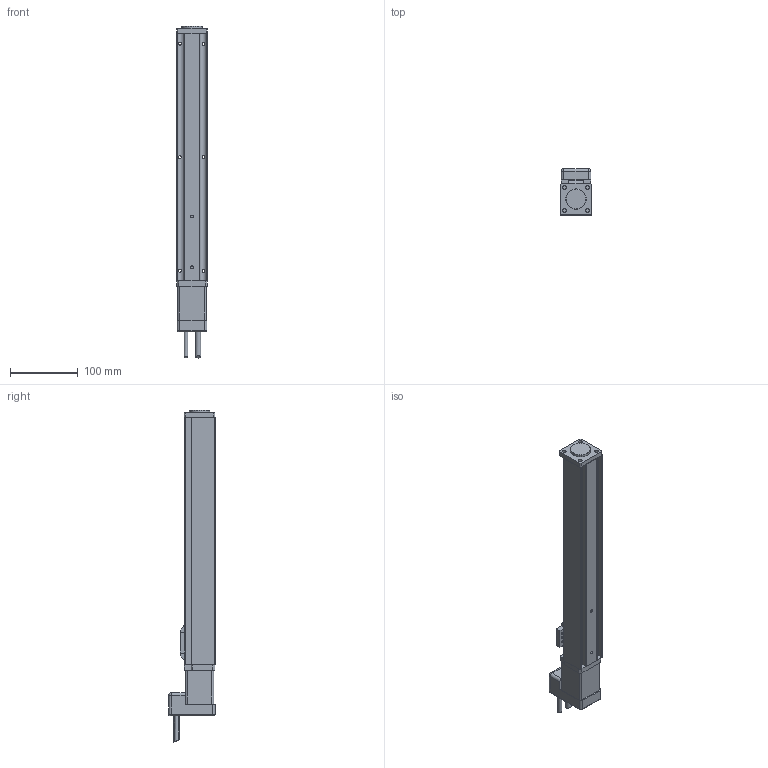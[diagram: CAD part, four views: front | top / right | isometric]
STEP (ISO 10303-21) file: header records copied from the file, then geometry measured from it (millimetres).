
FILE_DESCRIPTION(/* description */ ('Alibre Inc.'),/* implementation_level */ '2;1');
FILE_NAME(/* name */ 'export0',/* time_stamp */ '2011-08-02T10:14:40-04:00',/* author */ (''),/* organization */ (''),/* preprocessor_version */ 'ST-DEVELOPER v10',/* originating_system */ 'Alibre',/* authorisation */ '');
FILE_SCHEMA (('CONFIG_CONTROL_DESIGN'));
Length unit declared in the file: centimetre
Products named in the file (3): ID_1; ID_2
Bounding box: 47 x 68.8 x 489.76 mm (x, y, z)
Volume: 800569.8 mm3; surface area: 116159.6 mm2
Topology: 2 solids, 2 shells, 186 faces, 483 edges, 311 vertices
Faces by surface type: plane 100, cylinder 75, cone 5, torus 4, sphere 2
Full cylindrical faces by diameter (mm): 2.459 x3, 2.5 x1, 3.242 x4, 4 x4, 4.5 x6, 5 x1, 5.5 x5, 7.5 x1, 8 x6, 12 x1, 22 x1, 30 x1
Entity records: 5618 total; most frequent: CARTESIAN_POINT 1080, ORIENTED_EDGE 846, DIRECTION 804, EDGE_CURVE 423, AXIS2_PLACEMENT_3D 325, VERTEX_POINT 296, FACE_BOUND 275, EDGE_LOOP 271
